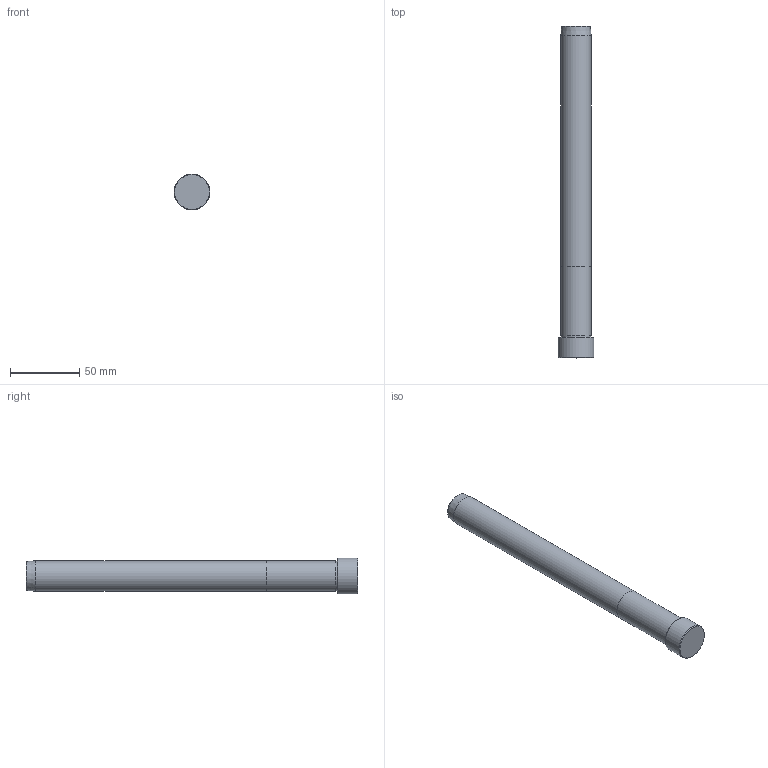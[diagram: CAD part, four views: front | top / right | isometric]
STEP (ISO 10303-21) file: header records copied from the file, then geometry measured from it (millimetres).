
FILE_DESCRIPTION( ( 'STEP AP203' ), '1' );
FILE_NAME( 'D:/Delta 3 D/D01D/22/D01D-22x240.step', '2003-01-02T23:30:47', ( ' ' ), ( ' ' ), 'XStep 1.0', ' ', ' ' );
FILE_SCHEMA( ( 'CONFIG_CONTROL_DESIGN' ) );
Length unit declared in the file: metre
Products named in the file (1): 1
Bounding box: 26 x 240 x 26 mm (x, y, z)
Volume: 93334.3 mm3; surface area: 17761.1 mm2
Topology: 1 solids, 1 shells, 13 faces, 20 edges, 12 vertices
Faces by surface type: plane 5, cylinder 4, cone 3, torus 1
Full cylindrical faces by diameter (mm): 21.5 x1, 22 x1, 22.015 x1, 26 x1
Entity records: 299 total; most frequent: DIRECTION 52, CARTESIAN_POINT 38, AXIS2_PLACEMENT_3D 26, EDGE_LOOP 24, ORIENTED_EDGE 24, FACE_OUTER_BOUND 18, ADVANCED_FACE 13, EDGE_CURVE 12
